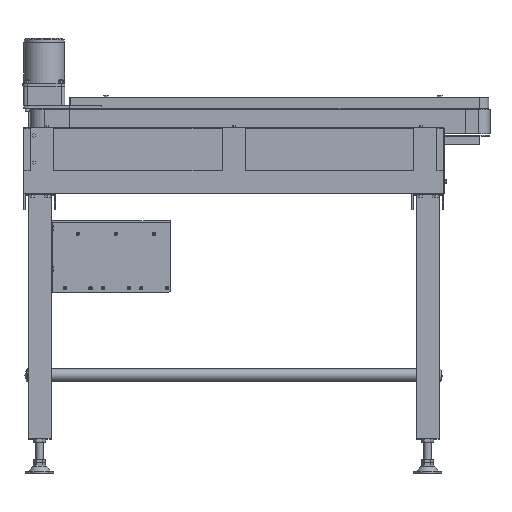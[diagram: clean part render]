
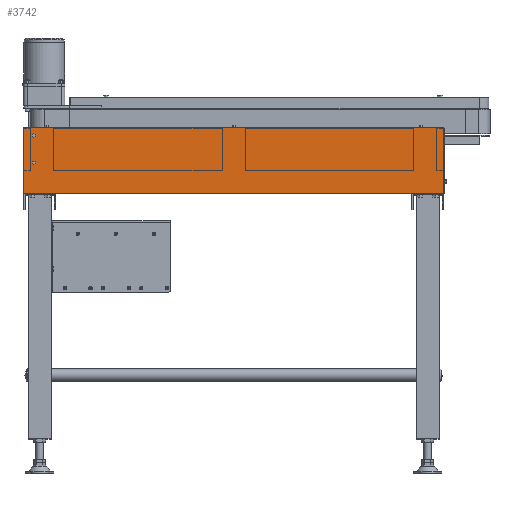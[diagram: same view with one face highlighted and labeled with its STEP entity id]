
A CAD part, top view. The second image highlights one B-rep face of the part: STEP entity #3742.
In plain terms, the highlighted planar face has unit normal (0, 0, 1).
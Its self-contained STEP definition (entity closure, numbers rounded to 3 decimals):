
#3742=ADVANCED_FACE('',(#9789,#9790,#9791),#9788,.T.);
#9788=PLANE('',#34609);
#9789=FACE_OUTER_BOUND('',#34610,.T.);
#9790=FACE_BOUND('',#34611,.T.);
#9791=FACE_BOUND('',#34612,.T.);
#34606=CARTESIAN_POINT('',(-10.,-150.,252.));
#34607=DIRECTION('',(0.,0.,1.));
#34608=DIRECTION('',(1.,0.,0.));
#34609=AXIS2_PLACEMENT_3D('',#34606,#34607,#34608);
#34610=EDGE_LOOP('',(#50646,#50647,#50648,#50649));
#34611=EDGE_LOOP('',(#50650,#50651,#50652,#50653,#50654,#50655));
#34612=EDGE_LOOP('',(#50656,#50657,#50658,#50659,#50660,#50661));
#50646=ORIENTED_EDGE('',*,*,#63138,.F.);
#50647=ORIENTED_EDGE('',*,*,#63139,.T.);
#50648=ORIENTED_EDGE('',*,*,#63140,.T.);
#50649=ORIENTED_EDGE('',*,*,#63141,.F.);
#50650=ORIENTED_EDGE('',*,*,#63142,.F.);
#50651=ORIENTED_EDGE('',*,*,#63143,.F.);
#50652=ORIENTED_EDGE('',*,*,#63144,.F.);
#50653=ORIENTED_EDGE('',*,*,#63145,.F.);
#50654=ORIENTED_EDGE('',*,*,#63146,.F.);
#50655=ORIENTED_EDGE('',*,*,#63147,.F.);
#50656=ORIENTED_EDGE('',*,*,#63148,.F.);
#50657=ORIENTED_EDGE('',*,*,#63149,.F.);
#50658=ORIENTED_EDGE('',*,*,#63150,.F.);
#50659=ORIENTED_EDGE('',*,*,#63151,.F.);
#50660=ORIENTED_EDGE('',*,*,#63152,.F.);
#50661=ORIENTED_EDGE('',*,*,#63153,.F.);
#63138=EDGE_CURVE('',#76145,#76146,#76147,.T.);
#63139=EDGE_CURVE('',#76145,#76153,#76154,.T.);
#63140=EDGE_CURVE('',#76153,#76160,#76161,.T.);
#63141=EDGE_CURVE('',#76146,#76160,#76167,.T.);
#63142=EDGE_CURVE('',#76173,#76174,#76175,.T.);
#63143=EDGE_CURVE('',#76181,#76173,#76182,.T.);
#63144=EDGE_CURVE('',#76188,#76181,#76189,.T.);
#63145=EDGE_CURVE('',#76195,#76188,#76196,.T.);
#63146=EDGE_CURVE('',#76202,#76195,#76203,.T.);
#63147=EDGE_CURVE('',#76174,#76202,#76209,.T.);
#63148=EDGE_CURVE('',#76215,#76216,#76217,.T.);
#63149=EDGE_CURVE('',#76223,#76215,#76224,.T.);
#63150=EDGE_CURVE('',#76230,#76223,#76231,.T.);
#63151=EDGE_CURVE('',#76237,#76230,#76238,.T.);
#63152=EDGE_CURVE('',#76244,#76237,#76245,.T.);
#63153=EDGE_CURVE('',#76216,#76244,#76251,.T.);
#76145=VERTEX_POINT('',#117913);
#76146=VERTEX_POINT('',#117914);
#76147=LINE('',#117915,#117916);
#76153=VERTEX_POINT('',#117918);
#76154=LINE('',#117919,#117920);
#76160=VERTEX_POINT('',#117922);
#76161=LINE('',#117923,#117924);
#76167=LINE('',#117926,#117927);
#76173=VERTEX_POINT('',#117929);
#76174=VERTEX_POINT('',#117930);
#76175=LINE('',#117931,#117932);
#76181=VERTEX_POINT('',#117934);
#76182=LINE('',#117935,#117936);
#76188=VERTEX_POINT('',#117938);
#76189=LINE('',#117939,#117940);
#76195=VERTEX_POINT('',#117942);
#76196=LINE('',#117943,#117944);
#76202=VERTEX_POINT('',#117946);
#76203=LINE('',#117947,#117948);
#76209=LINE('',#117950,#117951);
#76215=VERTEX_POINT('',#117953);
#76216=VERTEX_POINT('',#117954);
#76217=LINE('',#117955,#117956);
#76223=VERTEX_POINT('',#117958);
#76224=LINE('',#117959,#117960);
#76230=VERTEX_POINT('',#117962);
#76231=LINE('',#117963,#117964);
#76237=VERTEX_POINT('',#117966);
#76238=LINE('',#117967,#117968);
#76244=VERTEX_POINT('',#117970);
#76245=LINE('',#117971,#117972);
#76251=LINE('',#117974,#117975);
#117913=CARTESIAN_POINT('',(915.,-140.,252.));
#117914=CARTESIAN_POINT('',(0.,-140.,252.));
#117915=CARTESIAN_POINT('',(915.,-140.,252.));
#117916=VECTOR('',#117917,915.);
#117917=DIRECTION('',(-1.,0.,0.));
#117918=CARTESIAN_POINT('',(915.,4.,252.));
#117919=CARTESIAN_POINT('',(915.,-140.,252.));
#117920=VECTOR('',#117921,144.);
#117921=DIRECTION('',(0.,1.,0.));
#117922=CARTESIAN_POINT('',(0.,4.,252.));
#117923=CARTESIAN_POINT('',(915.,4.,252.));
#117924=VECTOR('',#117925,915.);
#117925=DIRECTION('',(-1.,0.,0.));
#117926=CARTESIAN_POINT('',(0.,-140.,252.));
#117927=VECTOR('',#117928,144.);
#117928=DIRECTION('',(0.,1.,0.));
#117929=CARTESIAN_POINT('',(18.5,-16.021,252.));
#117930=CARTESIAN_POINT('',(22.,-18.041,252.));
#117931=CARTESIAN_POINT('',(18.5,-16.021,252.));
#117932=VECTOR('',#117933,4.041);
#117933=DIRECTION('',(0.866,-0.5,0.));
#117934=CARTESIAN_POINT('',(18.5,-11.979,252.));
#117935=CARTESIAN_POINT('',(18.5,-11.979,252.));
#117936=VECTOR('',#117937,4.041);
#117937=DIRECTION('',(0.,-1.,0.));
#117938=CARTESIAN_POINT('',(22.,-9.959,252.));
#117939=CARTESIAN_POINT('',(22.,-9.959,252.));
#117940=VECTOR('',#117941,4.041);
#117941=DIRECTION('',(-0.866,-0.5,0.));
#117942=CARTESIAN_POINT('',(25.5,-11.979,252.));
#117943=CARTESIAN_POINT('',(25.5,-11.979,252.));
#117944=VECTOR('',#117945,4.041);
#117945=DIRECTION('',(-0.866,0.5,0.));
#117946=CARTESIAN_POINT('',(25.5,-16.021,252.));
#117947=CARTESIAN_POINT('',(25.5,-16.021,252.));
#117948=VECTOR('',#117949,4.041);
#117949=DIRECTION('',(0.,1.,0.));
#117950=CARTESIAN_POINT('',(22.,-18.041,252.));
#117951=VECTOR('',#117952,4.041);
#117952=DIRECTION('',(0.866,0.5,0.));
#117953=CARTESIAN_POINT('',(18.5,-76.021,252.));
#117954=CARTESIAN_POINT('',(22.,-78.041,252.));
#117955=CARTESIAN_POINT('',(18.5,-76.021,252.));
#117956=VECTOR('',#117957,4.041);
#117957=DIRECTION('',(0.866,-0.5,0.));
#117958=CARTESIAN_POINT('',(18.5,-71.979,252.));
#117959=CARTESIAN_POINT('',(18.5,-71.979,252.));
#117960=VECTOR('',#117961,4.041);
#117961=DIRECTION('',(0.,-1.,0.));
#117962=CARTESIAN_POINT('',(22.,-69.959,252.));
#117963=CARTESIAN_POINT('',(22.,-69.959,252.));
#117964=VECTOR('',#117965,4.041);
#117965=DIRECTION('',(-0.866,-0.5,0.));
#117966=CARTESIAN_POINT('',(25.5,-71.979,252.));
#117967=CARTESIAN_POINT('',(25.5,-71.979,252.));
#117968=VECTOR('',#117969,4.041);
#117969=DIRECTION('',(-0.866,0.5,0.));
#117970=CARTESIAN_POINT('',(25.5,-76.021,252.));
#117971=CARTESIAN_POINT('',(25.5,-76.021,252.));
#117972=VECTOR('',#117973,4.041);
#117973=DIRECTION('',(0.,1.,0.));
#117974=CARTESIAN_POINT('',(22.,-78.041,252.));
#117975=VECTOR('',#117976,4.041);
#117976=DIRECTION('',(0.866,0.5,0.));
